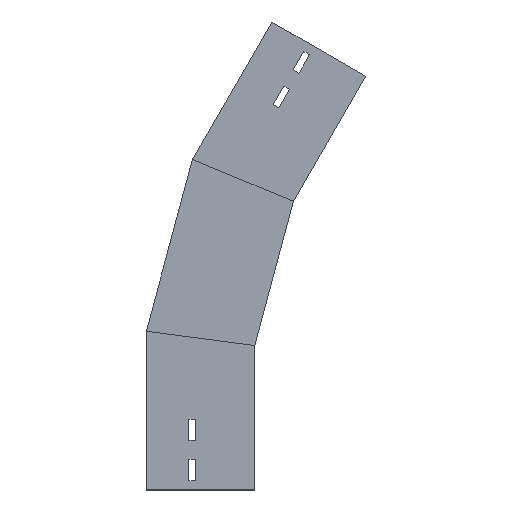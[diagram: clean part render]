
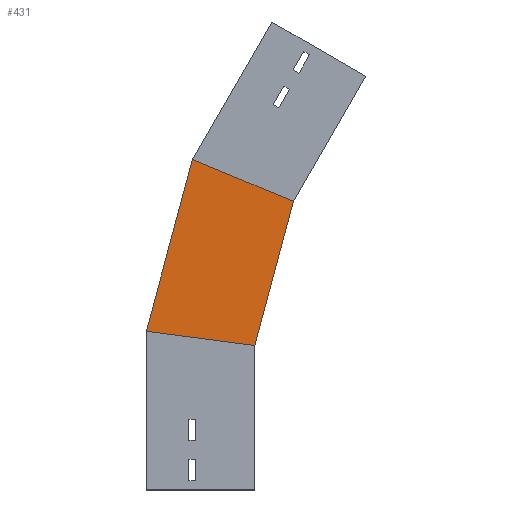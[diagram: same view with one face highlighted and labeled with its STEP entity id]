
A CAD part, left-side view. The second image highlights one B-rep face of the part: STEP entity #431.
In plain terms, the highlighted planar face has unit normal (-1, 0, 0) as drawn and (1, 0, 0) by its records, which use the part's own axes.
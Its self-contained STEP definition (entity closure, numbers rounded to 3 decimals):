
#2 = EDGE_CURVE ( 'NONE', #1458, #648, #506, .T. ) ;
#36 = EDGE_CURVE ( 'NONE', #1458, #1066, #1348, .T. ) ;
#157 = DIRECTION ( 'NONE',  ( 0., -0.259, 0.966 ) ) ;
#238 = ORIENTED_EDGE ( 'NONE', *, *, #2, .T. ) ;
#241 = CARTESIAN_POINT ( 'NONE',  ( 0., 64.716, 343.142 ) ) ;
#258 = ORIENTED_EDGE ( 'NONE', *, *, #1373, .F. ) ;
#325 = VECTOR ( 'NONE', #1253, 1000. ) ;
#346 = DIRECTION ( 'NONE',  ( 0., -0.924, -0.383 ) ) ;
#369 = CARTESIAN_POINT ( 'NONE',  ( 0., -60.785, 291.157 ) ) ;
#390 = CARTESIAN_POINT ( 'NONE',  ( 0., 112.909, 163.284 ) ) ;
#427 = LINE ( 'NONE', #1007, #325 ) ;
#431 = ADVANCED_FACE ( 'NONE', ( #1487 ), #441, .T. ) ;
#433 = DIRECTION ( 'NONE',  ( 0., 0., -1. ) ) ;
#441 = PLANE ( 'NONE',  #1401 ) ;
#506 = LINE ( 'NONE', #390, #1038 ) ;
#515 = VECTOR ( 'NONE', #346, 1000. ) ;
#523 = CARTESIAN_POINT ( 'NONE',  ( 0., -40.117, 299.719 ) ) ;
#621 = EDGE_LOOP ( 'NONE', ( #238, #1142, #258, #1005 ) ) ;
#647 = CARTESIAN_POINT ( 'NONE',  ( 0., 112.5, 164.811 ) ) ;
#648 = VERTEX_POINT ( 'NONE', #241 ) ;
#693 = CARTESIAN_POINT ( 'NONE',  ( 0., 4.243, 134.167 ) ) ;
#707 = LINE ( 'NONE', #369, #515 ) ;
#771 = VECTOR ( 'NONE', #1003, 1000. ) ;
#788 = VERTEX_POINT ( 'NONE', #523 ) ;
#813 = EDGE_CURVE ( 'NONE', #648, #788, #707, .T. ) ;
#889 = CARTESIAN_POINT ( 'NONE',  ( 0., -19.411, 147.444 ) ) ;
#1003 = DIRECTION ( 'NONE',  ( 0., -0.991, -0.131 ) ) ;
#1005 = ORIENTED_EDGE ( 'NONE', *, *, #36, .F. ) ;
#1007 = CARTESIAN_POINT ( 'NONE',  ( 0., 4.243, 134.167 ) ) ;
#1038 = VECTOR ( 'NONE', #157, 1000. ) ;
#1066 = VERTEX_POINT ( 'NONE', #1170 ) ;
#1142 = ORIENTED_EDGE ( 'NONE', *, *, #813, .T. ) ;
#1170 = CARTESIAN_POINT ( 'NONE',  ( 0., 0., 150. ) ) ;
#1253 = DIRECTION ( 'NONE',  ( 0., -0.259, 0.966 ) ) ;
#1348 = LINE ( 'NONE', #889, #771 ) ;
#1373 = EDGE_CURVE ( 'NONE', #1066, #788, #427, .T. ) ;
#1379 = DIRECTION ( 'NONE',  ( 1., 0., 0. ) ) ;
#1401 = AXIS2_PLACEMENT_3D ( 'NONE', #693, #1379, #433 ) ;
#1458 = VERTEX_POINT ( 'NONE', #647 ) ;
#1487 = FACE_OUTER_BOUND ( 'NONE', #621, .T. ) ;
